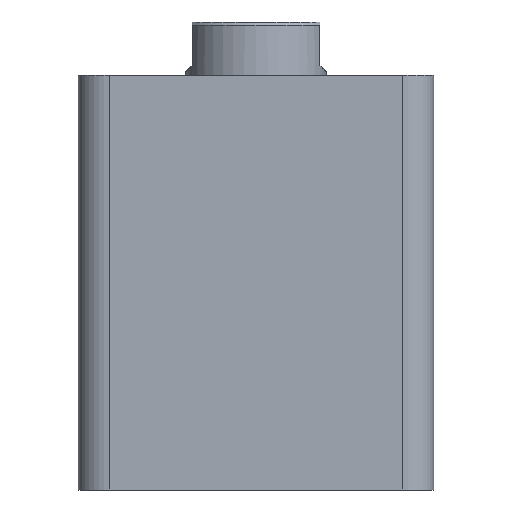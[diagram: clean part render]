
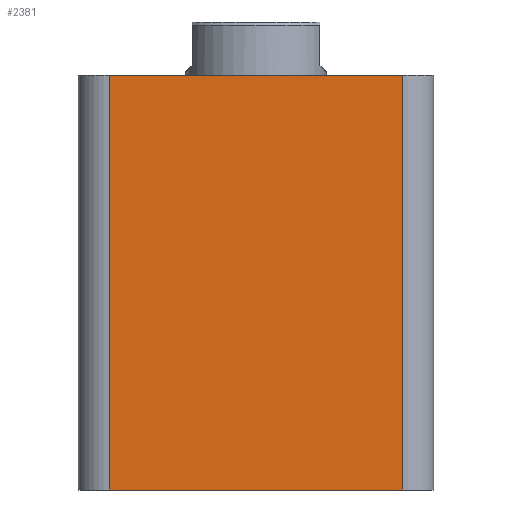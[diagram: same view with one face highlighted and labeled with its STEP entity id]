
A CAD part, front view. The second image highlights one B-rep face of the part: STEP entity #2381.
In plain terms, the highlighted planar face has unit normal (0, -1, 0).
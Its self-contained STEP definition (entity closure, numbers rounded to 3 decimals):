
#662 = DIRECTION ( 'NONE',  ( 1., 0., 0. ) ) ;
#664 = CARTESIAN_POINT ( 'NONE',  ( -57., -57., 0. ) ) ;
#704 = CARTESIAN_POINT ( 'NONE',  ( 47., -57., 133. ) ) ;
#705 = DIRECTION ( 'NONE',  ( 0., 0., 1. ) ) ;
#706 = CARTESIAN_POINT ( 'NONE',  ( -57., -57., 133. ) ) ;
#707 = DIRECTION ( 'NONE',  ( 1., 0., 0. ) ) ;
#708 = CARTESIAN_POINT ( 'NONE',  ( -47., -57., 133. ) ) ;
#709 = DIRECTION ( 'NONE',  ( 0., 0., -1. ) ) ;
#796 = CARTESIAN_POINT ( 'NONE',  ( -47., -57., 133. ) ) ;
#799 = CARTESIAN_POINT ( 'NONE',  ( 47., -57., 0. ) ) ;
#802 = CARTESIAN_POINT ( 'NONE',  ( 47., -57., 133. ) ) ;
#809 = CARTESIAN_POINT ( 'NONE',  ( -47., -57., 0. ) ) ;
#1023 = EDGE_LOOP ( 'NONE', ( #1922, #1921, #1920, #1919 ) ) ;
#1225 = EDGE_CURVE ( 'NONE', #1611, #1601, #1436, .T. ) ;
#1242 = EDGE_CURVE ( 'NONE', #1601, #1604, #1405, .T. ) ;
#1243 = EDGE_CURVE ( 'NONE', #1597, #1604, #1403, .T. ) ;
#1244 = EDGE_CURVE ( 'NONE', #1597, #1611, #1401, .T. ) ;
#1398 = VECTOR ( 'NONE', #709, 1000. ) ;
#1400 = VECTOR ( 'NONE', #707, 1000. ) ;
#1401 = LINE ( 'NONE', #708, #1398 ) ;
#1402 = VECTOR ( 'NONE', #705, 1000. ) ;
#1403 = LINE ( 'NONE', #706, #1400 ) ;
#1405 = LINE ( 'NONE', #704, #1402 ) ;
#1431 = VECTOR ( 'NONE', #662, 1000. ) ;
#1436 = LINE ( 'NONE', #664, #1431 ) ;
#1597 = VERTEX_POINT ( 'NONE', #796 ) ;
#1601 = VERTEX_POINT ( 'NONE', #799 ) ;
#1604 = VERTEX_POINT ( 'NONE', #802 ) ;
#1611 = VERTEX_POINT ( 'NONE', #809 ) ;
#1703 = AXIS2_PLACEMENT_3D ( 'NONE', #2200, #2208, #2209 ) ;
#1919 = ORIENTED_EDGE ( 'NONE', *, *, #1244, .T. ) ;
#1920 = ORIENTED_EDGE ( 'NONE', *, *, #1243, .F. ) ;
#1921 = ORIENTED_EDGE ( 'NONE', *, *, #1242, .T. ) ;
#1922 = ORIENTED_EDGE ( 'NONE', *, *, #1225, .T. ) ;
#2200 = CARTESIAN_POINT ( 'NONE',  ( -57., -57., 133. ) ) ;
#2207 = PLANE ( 'NONE',  #1703 ) ;
#2208 = DIRECTION ( 'NONE',  ( 0., 1., 0. ) ) ;
#2209 = DIRECTION ( 'NONE',  ( 0., 0., 1. ) ) ;
#2381 = ADVANCED_FACE ( 'NONE', ( #2561 ), #2207, .F. ) ;
#2561 = FACE_OUTER_BOUND ( 'NONE', #1023, .T. ) ;
